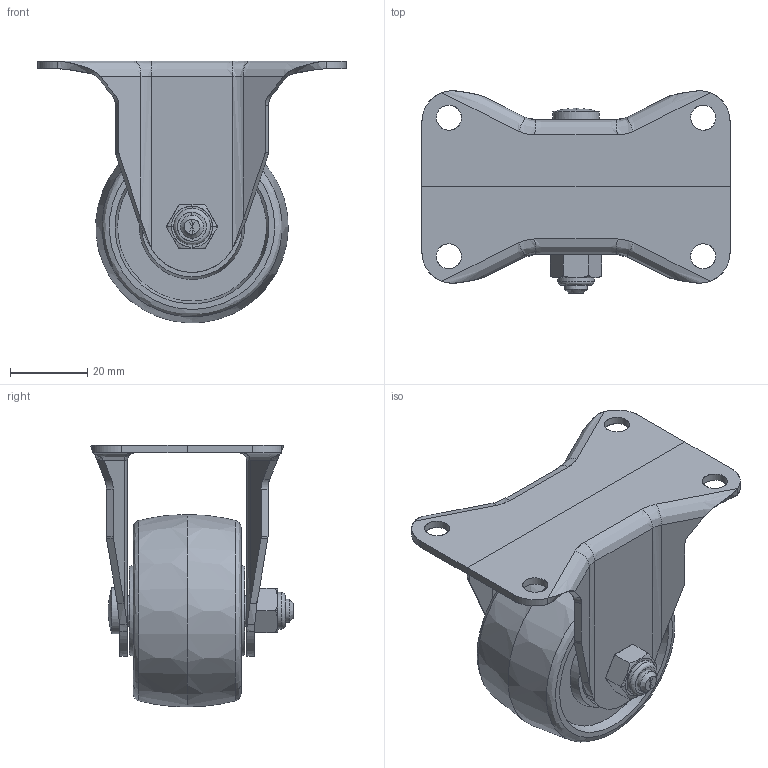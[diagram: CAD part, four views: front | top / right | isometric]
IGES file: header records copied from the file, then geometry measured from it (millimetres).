
Start section: JAMA-IS VERSION  1.0
Global section: file name: C:\CAM-TOOL data\ToolsFile\INOAC車輪\10月\FP50GNWK-All.igs; native system: CAM-TOOL; preprocessor: C3out Version 11.1.1.50212 (2015/02/12); author: NONE; organization: NONE; date: 231025.155844; units: millimetre
Bounding box: 80 x 52.48 x 67.97 mm (x, y, z)
Surface area: 28334.8 mm2 (no closed solid volume)
Topology: 0 solids, 0 shells, 163 faces, 1844 edges, 2159 vertices
Faces by surface type: bspline 163
